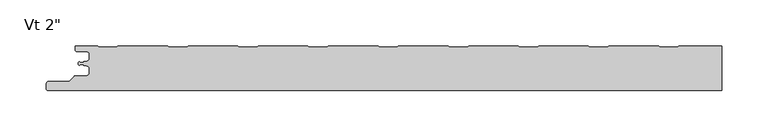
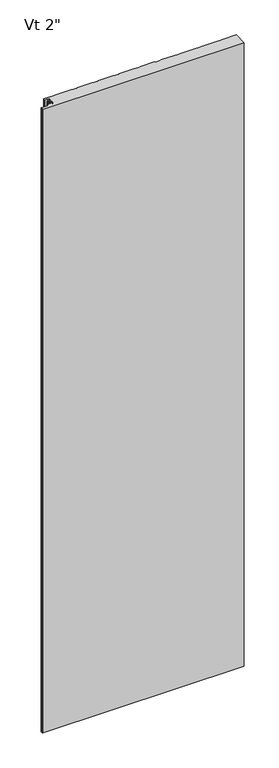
"""IFC4 building model written with IfcOpenShell, lengths in millimetres: plate geometry."""

from ifc_helpers import new_model, si_unit, frame, origin, place, context, project, spatial, polyline, circle_curve, source, transform, mapped, element, save
from ifc_brep_helpers import plane_surface, cylinder_surface, revolved_surface, advanced_brep


def plate_00549aa1(model_context):
    return source(origin(), model_context, "Body", "AdvancedBrep", [
        advanced_brep(
        [(-347.9683, -22.4708793, 2400.0), (-346.767176, -21.3014045, 2400.0), (-343.0087826, -21.3014045, 2400.0), (-343.0087826, -22.6998834, 2400.0), (-340.3096715, -22.6998834, 2400.0), (-336.9596762, -26.0498787, 2400.0), (-336.9596762, -30.4498699, 2400.0), (-340.3096715, -33.7998652, 2400.0), (-352.1205606, -33.7998652, 2400.0), (-353.3226383, -34.2977821, 2400.0), (-358.8247094, -39.7998532, 2400.0), (-380.9198391, -39.7998532, 2400.0), (-383.5765707, -42.0184552, 2400.0), (-384.0125697, -47.0002761, 2400.0), (-381.4521175, -49.794601, 2400.0), (350.4999998, -49.8000043, 2400.0), (350.4999998, -1.0063486, 2400.0), (303.778944, -1.0063486, 2400.0), (302.3933111, -2.2065793, 2400.0), (283.0181448, -2.2065793, 2400.0), (281.6325118, -1.0063486, 2400.0), (227.5790964, -1.0063486, 2400.0), (226.1934635, -2.2065793, 2400.0), (206.8182972, -2.2065793, 2400.0), (205.4326642, -1.0063486, 2400.0), (151.3792488, -1.0063486, 2400.0), (149.9936159, -2.2065793, 2400.0), (130.6184496, -2.2065793, 2400.0), (129.2328166, -1.0063486, 2400.0), (75.1794012, -1.0063486, 2400.0), (73.7937683, -2.2065793, 2400.0), (54.418602, -2.2065793, 2400.0), (53.032969, -1.0063486, 2400.0), (-1.0204464, -1.0063486, 2400.0), (-2.4060793, -2.2065793, 2400.0), (-21.7812456, -2.2065793, 2400.0), (-23.1668786, -1.0063486, 2400.0), (-77.220294, -1.0063486, 2400.0), (-78.6059269, -2.2065793, 2400.0), (-97.9810932, -2.2065793, 2400.0), (-99.3667262, -1.0063486, 2400.0), (-153.4201416, -1.0063486, 2400.0), (-154.8057745, -2.2065793, 2400.0), (-174.1809408, -2.2065793, 2400.0), (-175.5665738, -1.0063486, 2400.0), (-229.6199892, -1.0063486, 2400.0), (-231.0056221, -2.2065793, 2400.0), (-250.3807884, -2.2065793, 2400.0), (-251.7664214, -1.0063486, 2400.0), (-305.8198368, -1.0063486, 2400.0), (-307.2054697, -2.2065793, 2400.0), (-326.580636, -2.2065793, 2400.0), (-327.966269, -1.0063486, 2400.0), (-352.4662504, -1.0063486, 2400.0), (-352.4662504, -5.2378875, 2400.0), (-350.6962562, -7.0078817, 2400.0), (-340.2762777, -7.0078817, 2400.0), (-336.9762818, -10.3078776, 2400.0), (-336.9762818, -14.7078688, 2400.0), (-340.2762775, -18.0078645, 2400.0), (-342.9684873, -18.0078645, 2400.0), (-342.9684873, -19.007859, 2400.0), (-346.968691, -19.007859, 2400.0), (-347.9686882, -18.0078677, 2400.0), (-348.9999998, -19.0391794, 2400.0), (-348.9999998, -21.4391794, 2400.0), (-347.9683, -22.4708793, 0.0), (-348.9999998, -21.4391794, 0.0), (-348.9999998, -19.0391794, 0.0), (-347.9686882, -18.0078677, 0.0), (-346.968691, -19.007859, 0.0), (-342.9684873, -19.007859, 0.0), (-342.9684873, -18.0078645, 0.0), (-340.2762775, -18.0078645, 0.0), (-336.9762818, -14.7078688, 0.0), (-336.9762818, -10.3078776, 0.0), (-340.2762777, -7.0078817, 0.0), (-350.6962562, -7.0078817, 0.0), (-352.4662504, -5.2378875, 0.0), (-352.4662504, -1.0063486, 0.0), (-327.966269, -1.0063486, 0.0), (-326.580636, -2.2065793, 0.0), (-307.2054697, -2.2065793, 0.0), (-305.8198368, -1.0063486, 0.0), (-251.7664214, -1.0063486, 0.0), (-250.3807884, -2.2065793, 0.0), (-231.0056221, -2.2065793, 0.0), (-229.6199892, -1.0063486, 0.0), (-175.5665738, -1.0063486, 0.0), (-174.1809408, -2.2065793, 0.0), (-154.8057745, -2.2065793, 0.0), (-153.4201416, -1.0063486, 0.0), (-99.3667262, -1.0063486, 0.0), (-97.9810932, -2.2065793, 0.0), (-78.6059269, -2.2065793, 0.0), (-77.220294, -1.0063486, 0.0), (-23.1668786, -1.0063486, 0.0), (-21.7812456, -2.2065793, 0.0), (-2.4060793, -2.2065793, 0.0), (-1.0204464, -1.0063486, 0.0), (53.032969, -1.0063486, 0.0), (54.418602, -2.2065793, 0.0), (73.7937683, -2.2065793, 0.0), (75.1794012, -1.0063486, 0.0), (129.2328166, -1.0063486, 0.0), (130.6184496, -2.2065793, 0.0), (149.9936159, -2.2065793, 0.0), (151.3792488, -1.0063486, 0.0), (205.4326642, -1.0063486, 0.0), (206.8182972, -2.2065793, 0.0), (226.1934635, -2.2065793, 0.0), (227.5790964, -1.0063486, 0.0), (281.6325118, -1.0063486, 0.0), (283.0181448, -2.2065793, 0.0), (302.3933111, -2.2065793, 0.0), (303.778944, -1.0063486, 0.0), (350.4999998, -1.0063486, 0.0), (350.4999998, -49.8000043, 0.0), (-381.4521175, -49.8000043, 0.0), (-384.0125697, -47.0002761, 0.0), (-383.5765707, -42.0184552, 0.0), (-380.9198391, -39.7998532, 0.0), (-358.8247094, -39.7998532, 0.0), (-353.3226383, -34.2977821, 0.0), (-352.1205606, -33.7998652, 0.0), (-340.3096715, -33.7998652, 0.0), (-336.9596762, -30.4498699, 0.0), (-336.9596762, -26.0498787, 0.0), (-340.3096715, -22.6998834, 0.0), (-343.0087826, -22.6998834, 0.0), (-343.0087826, -21.3014045, 0.0), (-346.767176, -21.3014045, 0.0)],
        [
            (0, 1, circle_curve(frame((-346.7686906, -22.5014012, 2400.0), z_axis=(0.0, 0.0, -1.0), x_axis=(-1.0, 0.0, 0.0)), 1.1999976)),
            (1, 2),
            (2, 3),
            (3, 4),
            (4, 5, circle_curve(frame((-340.3096715, -26.0498787, 2400.0), z_axis=(0.0, 0.0, -1.0), x_axis=(-1.0, 0.0, 0.0)), 3.3499953)),
            (5, 6),
            (6, 7, circle_curve(frame((-340.3096715, -30.4498699, 2400.0), z_axis=(0.0, 0.0, -1.0), x_axis=(-1.0, 0.0, 0.0)), 3.3499953)),
            (7, 8),
            (8, 9, circle_curve(frame((-352.1205606, -35.4998598, 2400.0), z_axis=(0.0, 0.0, 1.0), x_axis=(-1.0, 0.0, 0.0)), 1.6999946)),
            (9, 10),
            (10, 11),
            (11, 12, circle_curve(frame((-380.9198391, -42.4998458, 2400.0), z_axis=(0.0, 0.0, 1.0), x_axis=(-1.0, 0.0, 0.0)), 2.6999926)),
            (12, 13),
            (13, 14, circle_curve(frame((-381.4521175, -47.2243617, 2400.0), z_axis=(0.0, 0.0, 1.0), x_axis=(-1.0, 0.0, 0.0)), 2.5702393)),
            (14, 15),
            (15, 16),
            (16, 17),
            (17, 18),
            (18, 19),
            (19, 20),
            (20, 21),
            (21, 22),
            (22, 23),
            (23, 24),
            (24, 25),
            (25, 26),
            (26, 27),
            (27, 28),
            (28, 29),
            (29, 30),
            (30, 31),
            (31, 32),
            (32, 33),
            (33, 34),
            (34, 35),
            (35, 36),
            (36, 37),
            (37, 38),
            (38, 39),
            (39, 40),
            (40, 41),
            (41, 42),
            (42, 43),
            (43, 44),
            (44, 45),
            (45, 46),
            (46, 47),
            (47, 48),
            (48, 49),
            (49, 50),
            (50, 51),
            (51, 52),
            (52, 53),
            (53, 54),
            (54, 55, circle_curve(frame((-350.6962562, -5.2378875, 2400.0), z_axis=(0.0, 0.0, 1.0), x_axis=(-1.0, 0.0, 0.0)), 1.7699942)),
            (55, 56),
            (56, 57, circle_curve(frame((-340.2762777, -10.3078776, 2400.0), z_axis=(0.0, 0.0, -1.0), x_axis=(-1.0, 0.0, 0.0)), 3.2999959)),
            (57, 58),
            (58, 59, circle_curve(frame((-340.2762775, -14.7078688, 2400.0), z_axis=(0.0, 0.0, -1.0), x_axis=(-1.0, 0.0, 0.0)), 3.2999957)),
            (59, 60),
            (60, 61),
            (61, 62),
            (62, 63, circle_curve(frame((-346.968691, -18.0078618, 2400.0), z_axis=(0.0, 0.0, -1.0), x_axis=(-1.0, 0.0, 0.0)), 0.9999972)),
            (63, 64),
            (64, 65),
            (65, 0),
            (66, 67),
            (67, 68),
            (68, 69),
            (69, 70, circle_curve(frame((-346.968691, -18.0078618, 0.0), z_axis=(0.0, 0.0, 1.0), x_axis=(-1.0, 0.0, 0.0)), 0.9999972)),
            (70, 71),
            (71, 72),
            (72, 73),
            (73, 74, circle_curve(frame((-340.2762775, -14.7078688, 0.0), z_axis=(0.0, 0.0, 1.0), x_axis=(-1.0, 0.0, 0.0)), 3.2999957)),
            (74, 75),
            (75, 76, circle_curve(frame((-340.2762777, -10.3078776, 0.0), z_axis=(0.0, 0.0, 1.0), x_axis=(-1.0, 0.0, 0.0)), 3.2999959)),
            (76, 77),
            (77, 78, circle_curve(frame((-350.6962562, -5.2378875, 0.0), z_axis=(0.0, 0.0, -1.0), x_axis=(-1.0, 0.0, 0.0)), 1.7699942)),
            (78, 79),
            (79, 80),
            (80, 81),
            (81, 82),
            (82, 83),
            (83, 84),
            (84, 85),
            (85, 86),
            (86, 87),
            (87, 88),
            (88, 89),
            (89, 90),
            (90, 91),
            (91, 92),
            (92, 93),
            (93, 94),
            (94, 95),
            (95, 96),
            (96, 97),
            (97, 98),
            (98, 99),
            (99, 100),
            (100, 101),
            (101, 102),
            (102, 103),
            (103, 104),
            (104, 105),
            (105, 106),
            (106, 107),
            (107, 108),
            (108, 109),
            (109, 110),
            (110, 111),
            (111, 112),
            (112, 113),
            (113, 114),
            (114, 115),
            (115, 116),
            (116, 117),
            (117, 118),
            (118, 119, circle_curve(frame((-381.4521175, -47.2243617, 0.0), z_axis=(0.0, 0.0, -1.0), x_axis=(-1.0, 0.0, 0.0)), 2.5702393)),
            (119, 120),
            (120, 121, circle_curve(frame((-380.9198391, -42.4998458, 0.0), z_axis=(0.0, 0.0, -1.0), x_axis=(-1.0, 0.0, 0.0)), 2.6999926)),
            (121, 122),
            (122, 123),
            (123, 124, circle_curve(frame((-352.1205606, -35.4998598, 0.0), z_axis=(0.0, 0.0, -1.0), x_axis=(-1.0, 0.0, 0.0)), 1.6999946)),
            (124, 125),
            (125, 126, circle_curve(frame((-340.3096715, -30.4498699, 0.0), z_axis=(0.0, 0.0, 1.0), x_axis=(-1.0, 0.0, 0.0)), 3.3499953)),
            (126, 127),
            (127, 128, circle_curve(frame((-340.3096715, -26.0498787, 0.0), z_axis=(0.0, 0.0, 1.0), x_axis=(-1.0, 0.0, 0.0)), 3.3499953)),
            (128, 129),
            (129, 130),
            (130, 131),
            (131, 66, circle_curve(frame((-346.7686906, -22.5014012, 0.0), z_axis=(0.0, 0.0, 1.0), x_axis=(-1.0, 0.0, 0.0)), 1.1999976)),
            (15, 117),
            (116, 16),
            (65, 67),
            (66, 0),
            (64, 68),
            (63, 69),
            (62, 70),
            (61, 71),
            (60, 72),
            (59, 73),
            (58, 74),
            (57, 75),
            (56, 76),
            (55, 77),
            (54, 78),
            (53, 79),
            (14, 118),
            (13, 119),
            (12, 120),
            (11, 121),
            (10, 122),
            (9, 123),
            (8, 124),
            (7, 125),
            (6, 126),
            (5, 127),
            (4, 128),
            (3, 129),
            (2, 130),
            (1, 131),
            (52, 80),
            (51, 81),
            (50, 82),
            (49, 83),
            (48, 84),
            (47, 85),
            (46, 86),
            (45, 87),
            (44, 88),
            (43, 89),
            (42, 90),
            (41, 91),
            (40, 92),
            (39, 93),
            (38, 94),
            (37, 95),
            (36, 96),
            (35, 97),
            (34, 98),
            (33, 99),
            (32, 100),
            (31, 101),
            (30, 102),
            (29, 103),
            (28, 104),
            (27, 105),
            (26, 106),
            (25, 107),
            (24, 108),
            (23, 109),
            (22, 110),
            (21, 111),
            (20, 112),
            (19, 113),
            (18, 114),
            (17, 115),
        ],
        [
            plane_surface(frame((32.0000002, -49.8000043, 2400.0), z_axis=(0.0, 0.0, 1.0), x_axis=(0.0, -1.0, 0.0))),
            plane_surface(frame((32.0000002, -49.8000043, 0.0), z_axis=(0.0, 0.0, -1.0), x_axis=(0.0, -1.0, 0.0))),
            plane_surface(frame((350.4999998, -60.8000043, 2400.0), z_axis=(1.0, 0.0, 0.0), x_axis=(0.0, 0.0, -1.0))),
            plane_surface(frame((-347.9683, -22.4708793, 2400.0), z_axis=(-0.7071067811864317, -0.7071067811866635, 0.0), x_axis=(0.0, 0.0, -1.0))),
            plane_surface(frame((-348.9999998, -21.4391794, 2400.0), z_axis=(-1.0, 0.0, 0.0), x_axis=(0.0, 0.0, -1.0))),
            plane_surface(frame((-348.9999998, -19.0391794, 2400.0), z_axis=(-0.7071067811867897, 0.7071067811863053, 0.0), x_axis=(0.0, 0.0, -1.0))),
            revolved_surface(polyline([(-347.9686882, -18.0078618, 0.0), (-347.9686882, -18.0078618, 2400.0)]), (-346.968691, -18.0078618, 2400.0), (0.0, 0.0, -1.0)),
            plane_surface(frame((-346.968691, -19.007859, 2400.0), z_axis=(0.0, 1.0, 0.0), x_axis=(0.0, 0.0, -1.0))),
            plane_surface(frame((-342.9684873, -19.007859, 2400.0), z_axis=(-1.0, 0.0, 0.0), x_axis=(0.0, 0.0, -1.0))),
            plane_surface(frame((-342.9684873, -18.0078645, 2400.0), z_axis=(0.0, 1.0, 0.0), x_axis=(0.0, 0.0, -1.0))),
            revolved_surface(polyline([(-343.5762732, -14.7078688, 0.0), (-343.5762732, -14.7078688, 2400.0)]), (-340.2762775, -14.7078688, 2400.0), (0.0, 0.0, -1.0)),
            plane_surface(frame((-336.9762818, -14.7078688, 2400.0), z_axis=(-1.0, 0.0, 0.0), x_axis=(0.0, 0.0, -1.0))),
            revolved_surface(polyline([(-343.5762736, -10.3078776, 0.0), (-343.5762736, -10.3078776, 2400.0)]), (-340.2762777, -10.3078776, 2400.0), (0.0, 0.0, -1.0)),
            plane_surface(frame((-340.2762777, -7.0078817, 2400.0), z_axis=(0.0, -1.0, 0.0), x_axis=(0.0, 0.0, -1.0))),
            cylinder_surface(frame((-350.6962562, -5.2378875, 2400.0), z_axis=(0.0, 0.0, 1.0), x_axis=(-1.0, 0.0, 0.0)), 1.7699942),
            plane_surface(frame((-352.4662504, -5.2378875, 2400.0), z_axis=(-1.0, 0.0, 0.0), x_axis=(0.0, 0.0, -1.0))),
            plane_surface(frame((364.5156221, -49.8000043, 2400.0), z_axis=(0.0, -1.0, 0.0), x_axis=(0.0, 0.0, -1.0))),
            cylinder_surface(frame((-381.4521175, -47.2243617, 2400.0), z_axis=(0.0, 0.0, 1.0), x_axis=(-1.0, 0.0, 0.0)), 2.5702393),
            plane_surface(frame((-384.0125697, -47.0002761, 2400.0), z_axis=(-0.9961921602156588, 0.0871847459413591, 0.0), x_axis=(0.0, 0.0, -1.0))),
            cylinder_surface(frame((-380.9198391, -42.4998458, 2400.0), z_axis=(0.0, 0.0, 1.0), x_axis=(-1.0, 0.0, 0.0)), 2.6999926),
            plane_surface(frame((-380.9198391, -39.7998532, 2400.0), z_axis=(0.0, 1.0, 0.0), x_axis=(0.0, 0.0, -1.0))),
            plane_surface(frame((-358.8247094, -39.7998532, 2400.0), z_axis=(-0.7071067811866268, 0.7071067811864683, 0.0), x_axis=(0.0, 0.0, -1.0))),
            cylinder_surface(frame((-352.1205606, -35.4998598, 2400.0), z_axis=(0.0, 0.0, 1.0), x_axis=(-1.0, 0.0, 0.0)), 1.6999946),
            plane_surface(frame((-352.1205606, -33.7998652, 2400.0), z_axis=(0.0, 1.0, 0.0), x_axis=(0.0, 0.0, -1.0))),
            revolved_surface(polyline([(-343.65966679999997, -30.4498699, 0.0), (-343.65966679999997, -30.4498699, 2400.0)]), (-340.3096715, -30.4498699, 2400.0), (0.0, 0.0, -1.0)),
            plane_surface(frame((-336.9596762, -30.4498699, 2400.0), z_axis=(-1.0, 0.0, 0.0), x_axis=(0.0, 0.0, -1.0))),
            revolved_surface(polyline([(-343.65966679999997, -26.0498787, 0.0), (-343.65966679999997, -26.0498787, 2400.0)]), (-340.3096715, -26.0498787, 2400.0), (0.0, 0.0, -1.0)),
            plane_surface(frame((-340.3096715, -22.6998834, 2400.0), z_axis=(0.0, -1.0, 0.0), x_axis=(0.0, 0.0, -1.0))),
            plane_surface(frame((-343.0087826, -22.6998834, 2400.0), z_axis=(-1.0, 0.0, 0.0), x_axis=(0.0, 0.0, -1.0))),
            plane_surface(frame((-343.0087826, -21.3014045, 2400.0), z_axis=(0.0, -1.0, 0.0), x_axis=(0.0, 0.0, -1.0))),
            revolved_surface(polyline([(-347.96868820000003, -22.5014012, 0.0), (-347.96868820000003, -22.5014012, 2400.0)]), (-346.7686906, -22.5014012, 2400.0), (0.0, 0.0, -1.0)),
            plane_surface(frame((-352.4662504, -1.0063486, 2400.0), z_axis=(0.0, 1.0, 0.0), x_axis=(0.0, 0.0, -1.0))),
            plane_surface(frame((-327.966269, -1.0063486, 2400.0), z_axis=(0.6547276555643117, 0.7558648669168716, 0.0), x_axis=(0.0, 0.0, -1.0))),
            plane_surface(frame((-326.580636, -2.2065793, 2400.0), z_axis=(0.0, 1.0, 0.0), x_axis=(0.0, 0.0, -1.0))),
            plane_surface(frame((-307.2054697, -2.2065793, 2400.0), z_axis=(-0.6547276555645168, 0.755864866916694, 0.0), x_axis=(0.0, 0.0, -1.0))),
            plane_surface(frame((-305.8198368, -1.0063486, 2400.0), z_axis=(0.0, 1.0, 0.0), x_axis=(0.0, 0.0, -1.0))),
            plane_surface(frame((-251.7664214, -1.0063486, 2400.0), z_axis=(0.6547276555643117, 0.7558648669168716, 0.0), x_axis=(0.0, 0.0, -1.0))),
            plane_surface(frame((-250.3807884, -2.2065793, 2400.0), z_axis=(0.0, 1.0, 0.0), x_axis=(0.0, 0.0, -1.0))),
            plane_surface(frame((-231.0056221, -2.2065793, 2400.0), z_axis=(-0.6547276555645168, 0.755864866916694, 0.0), x_axis=(0.0, 0.0, -1.0))),
            plane_surface(frame((-229.6199892, -1.0063486, 2400.0), z_axis=(0.0, 1.0, 0.0), x_axis=(0.0, 0.0, -1.0))),
            plane_surface(frame((-175.5665738, -1.0063486, 2400.0), z_axis=(0.654727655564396, 0.7558648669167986, 0.0), x_axis=(0.0, 0.0, -1.0))),
            plane_surface(frame((-174.1809408, -2.2065793, 2400.0), z_axis=(0.0, 1.0, 0.0), x_axis=(0.0, 0.0, -1.0))),
            plane_surface(frame((-154.8057745, -2.2065793, 2400.0), z_axis=(-0.6547276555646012, 0.7558648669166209, 0.0), x_axis=(0.0, 0.0, -1.0))),
            plane_surface(frame((-153.4201416, -1.0063486, 2400.0), z_axis=(0.0, 1.0, 0.0), x_axis=(0.0, 0.0, -1.0))),
            plane_surface(frame((-99.3667262, -1.0063486, 2400.0), z_axis=(0.6547276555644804, 0.7558648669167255, 0.0), x_axis=(0.0, 0.0, -1.0))),
            plane_surface(frame((-97.9810932, -2.2065793, 2400.0), z_axis=(0.0, 1.0, 0.0), x_axis=(0.0, 0.0, -1.0))),
            plane_surface(frame((-78.6059269, -2.2065793, 2400.0), z_axis=(-0.65472765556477, 0.7558648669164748, 0.0), x_axis=(0.0, 0.0, -1.0))),
            plane_surface(frame((-77.220294, -1.0063486, 2400.0), z_axis=(0.0, 1.0, 0.0), x_axis=(0.0, 0.0, -1.0))),
            plane_surface(frame((-23.1668786, -1.0063486, 2400.0), z_axis=(0.6547276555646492, 0.7558648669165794, 0.0), x_axis=(0.0, 0.0, -1.0))),
            plane_surface(frame((-21.7812456, -2.2065793, 2400.0), z_axis=(0.0, 1.0, 0.0), x_axis=(0.0, 0.0, -1.0))),
            plane_surface(frame((-2.4060793, -2.2065793, 2400.0), z_axis=(-0.65472765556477, 0.7558648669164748, 0.0), x_axis=(0.0, 0.0, -1.0))),
            plane_surface(frame((-1.0204464, -1.0063486, 2400.0), z_axis=(0.0, 1.0, 0.0), x_axis=(0.0, 0.0, -1.0))),
            plane_surface(frame((53.032969, -1.0063486, 2400.0), z_axis=(0.6547276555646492, 0.7558648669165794, 0.0), x_axis=(0.0, 0.0, -1.0))),
            plane_surface(frame((54.418602, -2.2065793, 2400.0), z_axis=(0.0, 1.0, 0.0), x_axis=(0.0, 0.0, -1.0))),
            plane_surface(frame((73.7937683, -2.2065793, 2400.0), z_axis=(-0.6547276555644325, 0.755864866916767, 0.0), x_axis=(0.0, 0.0, -1.0))),
            plane_surface(frame((75.1794012, -1.0063486, 2400.0), z_axis=(0.0, 1.0, 0.0), x_axis=(0.0, 0.0, -1.0))),
            plane_surface(frame((129.2328166, -1.0063486, 2400.0), z_axis=(0.6547276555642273, 0.7558648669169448, 0.0), x_axis=(0.0, 0.0, -1.0))),
            plane_surface(frame((130.6184496, -2.2065793, 2400.0), z_axis=(0.0, 1.0, 0.0), x_axis=(0.0, 0.0, -1.0))),
            plane_surface(frame((149.9936159, -2.2065793, 2400.0), z_axis=(-0.6547276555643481, 0.7558648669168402, 0.0), x_axis=(0.0, 0.0, -1.0))),
            plane_surface(frame((151.3792488, -1.0063486, 2400.0), z_axis=(0.0, 1.0, 0.0), x_axis=(0.0, 0.0, -1.0))),
            plane_surface(frame((205.4326642, -1.0063486, 2400.0), z_axis=(0.6547276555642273, 0.7558648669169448, 0.0), x_axis=(0.0, 0.0, -1.0))),
            plane_surface(frame((206.8182972, -2.2065793, 2400.0), z_axis=(0.0, 1.0, 0.0), x_axis=(0.0, 0.0, -1.0))),
            plane_surface(frame((226.1934635, -2.2065793, 2400.0), z_axis=(-0.6547276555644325, 0.755864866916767, 0.0), x_axis=(0.0, 0.0, -1.0))),
            plane_surface(frame((227.5790964, -1.0063486, 2400.0), z_axis=(0.0, 1.0, 0.0), x_axis=(0.0, 0.0, -1.0))),
            plane_surface(frame((281.6325118, -1.0063486, 2400.0), z_axis=(0.6547276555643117, 0.7558648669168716, 0.0), x_axis=(0.0, 0.0, -1.0))),
            plane_surface(frame((283.0181448, -2.2065793, 2400.0), z_axis=(0.0, 1.0, 0.0), x_axis=(0.0, 0.0, -1.0))),
            plane_surface(frame((302.3933111, -2.2065793, 2400.0), z_axis=(-0.6547276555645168, 0.755864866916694, 0.0), x_axis=(0.0, 0.0, -1.0))),
            plane_surface(frame((303.778944, -1.0063486, 2400.0), z_axis=(0.0, 1.0, 0.0), x_axis=(0.0, 0.0, -1.0))),
        ],
        [
            (0, [[1, 2, 3, 4, 5, 6, 7, 8, 9, 10, 11, 12, 13, 14, 15, 16, 17, 18, 19, 20, 21, 22, 23, 24, 25, 26, 27, 28, 29, 30, 31, 32, 33, 34, 35, 36, 37, 38, 39, 40, 41, 42, 43, 44, 45, 46, 47, 48, 49, 50, 51, 52, 53, 54, 55, 56, 57, 58, 59, 60, 61, 62, 63, 64, 65, 66]]),
            (1, [[67, 68, 69, 70, 71, 72, 73, 74, 75, 76, 77, 78, 79, 80, 81, 82, 83, 84, 85, 86, 87, 88, 89, 90, 91, 92, 93, 94, 95, 96, 97, 98, 99, 100, 101, 102, 103, 104, 105, 106, 107, 108, 109, 110, 111, 112, 113, 114, 115, 116, 117, 118, 119, 120, 121, 122, 123, 124, 125, 126, 127, 128, 129, 130, 131, 132]]),
            (2, [[133, -117, 134, -16]]),
            (3, [[135, -67, 136, -66]]),
            (4, [[137, -68, -135, -65]]),
            (5, [[138, -69, -137, -64]]),
            (6, [[139, -70, -138, -63]]),
            (7, [[140, -71, -139, -62]]),
            (8, [[141, -72, -140, -61]]),
            (9, [[142, -73, -141, -60]]),
            (10, [[143, -74, -142, -59]]),
            (11, [[144, -75, -143, -58]]),
            (12, [[145, -76, -144, -57]]),
            (13, [[146, -77, -145, -56]]),
            (14, [[147, -78, -146, -55]]),
            (15, [[148, -79, -147, -54]]),
            (16, [[-118, -133, -15, 149]]),
            (17, [[150, -119, -149, -14]]),
            (18, [[151, -120, -150, -13]]),
            (19, [[152, -121, -151, -12]]),
            (20, [[153, -122, -152, -11]]),
            (21, [[154, -123, -153, -10]]),
            (22, [[155, -124, -154, -9]]),
            (23, [[156, -125, -155, -8]]),
            (24, [[157, -126, -156, -7]]),
            (25, [[158, -127, -157, -6]]),
            (26, [[159, -128, -158, -5]]),
            (27, [[160, -129, -159, -4]]),
            (28, [[161, -130, -160, -3]]),
            (29, [[162, -131, -161, -2]]),
            (30, [[-136, -132, -162, -1]]),
            (31, [[163, -80, -148, -53]]),
            (32, [[164, -81, -163, -52]]),
            (33, [[165, -82, -164, -51]]),
            (34, [[166, -83, -165, -50]]),
            (35, [[167, -84, -166, -49]]),
            (36, [[168, -85, -167, -48]]),
            (37, [[169, -86, -168, -47]]),
            (38, [[170, -87, -169, -46]]),
            (39, [[171, -88, -170, -45]]),
            (40, [[172, -89, -171, -44]]),
            (41, [[173, -90, -172, -43]]),
            (42, [[174, -91, -173, -42]]),
            (43, [[175, -92, -174, -41]]),
            (44, [[176, -93, -175, -40]]),
            (45, [[177, -94, -176, -39]]),
            (46, [[178, -95, -177, -38]]),
            (47, [[179, -96, -178, -37]]),
            (48, [[180, -97, -179, -36]]),
            (49, [[181, -98, -180, -35]]),
            (50, [[182, -99, -181, -34]]),
            (51, [[183, -100, -182, -33]]),
            (52, [[184, -101, -183, -32]]),
            (53, [[185, -102, -184, -31]]),
            (54, [[186, -103, -185, -30]]),
            (55, [[187, -104, -186, -29]]),
            (56, [[188, -105, -187, -28]]),
            (57, [[189, -106, -188, -27]]),
            (58, [[190, -107, -189, -26]]),
            (59, [[191, -108, -190, -25]]),
            (60, [[192, -109, -191, -24]]),
            (61, [[193, -110, -192, -23]]),
            (62, [[194, -111, -193, -22]]),
            (63, [[195, -112, -194, -21]]),
            (64, [[196, -113, -195, -20]]),
            (65, [[197, -114, -196, -19]]),
            (66, [[198, -115, -197, -18]]),
            (67, [[-17, -134, -116, -198]]),
        ],
    ),
    ])


if __name__ == "__main__":
    model = new_model("IFC4")
    model_context = context("Model", 3, world=origin())
    ifc_project = project(units=[si_unit("LENGTHUNIT", "METRE", prefix="MILLI")], contexts=[model_context])
    site = spatial("IfcSite", under=ifc_project)
    building = spatial("IfcBuilding", under=site)
    placement = place(None, origin())
    plate_shape = plate_00549aa1(model_context)
    element("IfcPlate", 1, ObjectType="KIP-30-Karrier-KP-R19-CP-Vt-SL_SL : Vt 2\"", at=placement, inside=building, context=model_context, shape_type="MappedRepresentation", body=[
        mapped(plate_shape, transform((0.0, 0.0, 0.0), x_axis=(1.0, 0.0, 0.0), y_axis=(0.0, 1.0, 0.0), z_axis=(0.0, 0.0, 1.0))),
    ])
    save(model, "model.ifc")
